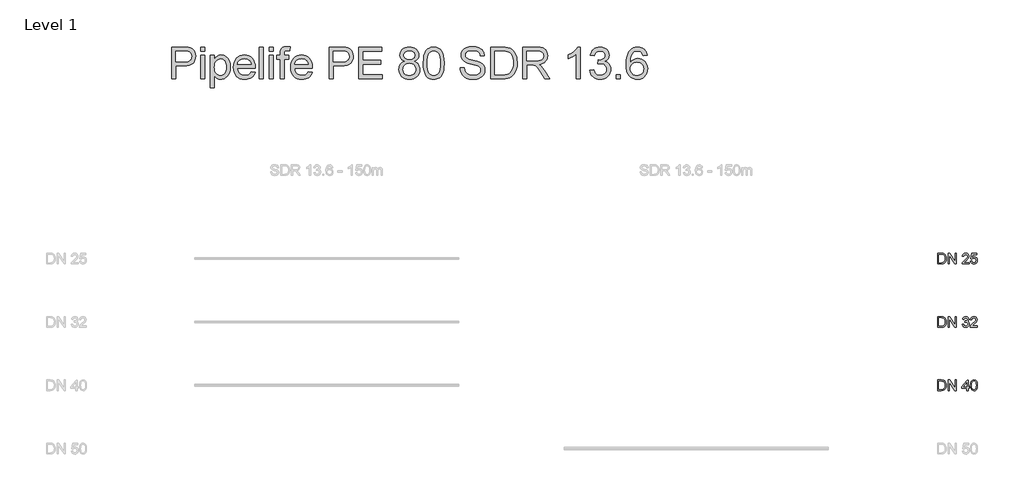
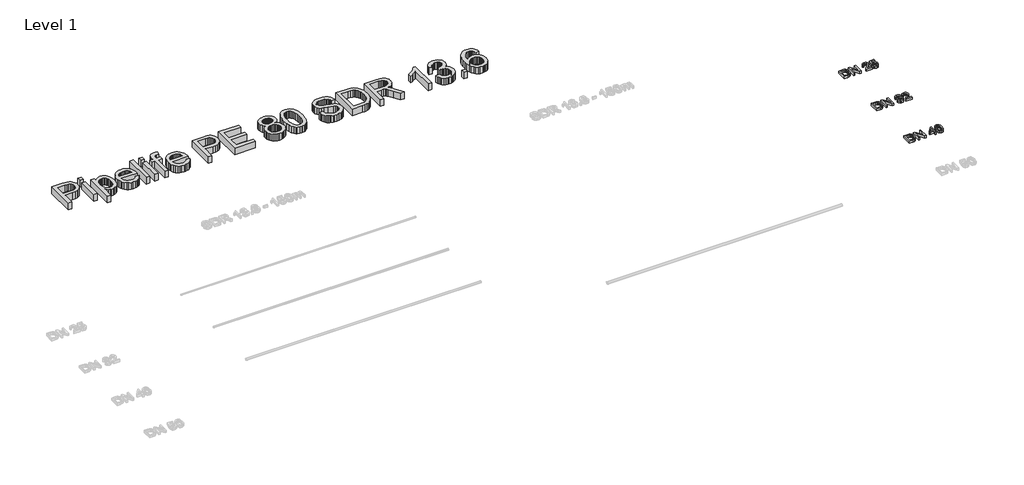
# One storey, part 3 of 6: 4 proxies.
"""IFC4 building model written with IfcOpenShell, lengths in millimetres."""

from ifc_helpers import new_model, si_unit, origin, origin_with_axes, place, context, project, spatial, polyline, outline, extrude, element, save

model = new_model("IFC4")

# Units and contexts
model_context = context("Model", 3, world=origin())
ifc_project = project(units=[si_unit("LENGTHUNIT", "METRE", prefix="MILLI")], contexts=[model_context])

# Site, building, storey
site = spatial("IfcSite", under=ifc_project)
building = spatial("IfcBuilding", under=site)
storey = spatial("IfcBuildingStorey", under=building, Name="Level 1", Elevation=0.0)

# Proxies
placement = place(None, origin())
element("IfcBuildingElementProxy", 1, Name="200mm Arial", ObjectType="200mm Arial", at=placement, inside=storey, context=model_context, shape_type="SweptSolid", body=[
    extrude(outline(polyline([(-2460.6923074, -14213.949573), (-2460.6923074, -14013.0369527), (-2391.3833395, -14013.0369527), (-2355.5271077, -14015.9309577), (-2339.5119782, -14021.5105013), (-2325.9984462, -14030.302881), (-2312.1047695, -14045.606772), (-2302.2087438, -14064.6385338), (-2296.2858437, -14087.0302846), (-2294.3115437, -14112.4141423), (-2299.6580953, -14152.9547382), (-2313.3923565, -14182.2136195), (-2331.7374053, -14200.436041), (-2355.7478369, -14210.5160077), (-2388.0478761, -14213.949573), (-2460.6923074, -14213.949573)]), holes=[polyline([(-2435.5782298, -14188.8354954), (-2391.1380848, -14188.8354954), (-2358.8135202, -14185.2057264), (-2340.1741658, -14174.9540815), (-2331.4492311, -14164.0831685), (-2324.8948002, -14150.0116822), (-2320.792916, -14132.6783089), (-2319.4256212, -14112.0217348), (-2322.1050284, -14084.6513144), (-2330.14325, -14064.4423301), (-2342.0197071, -14050.5609162), (-2356.2138207, -14042.1732067), (-2391.8247979, -14038.1510302), (-2435.5782298, -14038.1510302), (-2435.5782298, -14188.8354954)])]), origin_with_axes(), (0.0, 0.0, 1.0), 50.0),
    extrude(outline(polyline([(-2259.7796871, -14213.949573), (-2259.7796871, -14013.0369527), (-2232.899776, -14013.0369527), (-2127.93078, -14172.2072292), (-2127.93078, -14013.0369527), (-2102.8167025, -14013.0369527), (-2102.8167025, -14213.949573), (-2129.6966136, -14213.949573), (-2234.6656095, -14054.7302454), (-2234.6656095, -14213.949573), (-2259.7796871, -14213.949573)])), origin_with_axes(), (0.0, 0.0, 1.0), 50.0),
    extrude(outline(polyline([(-1989.8033535, -14160.5821582), (-1964.689276, -14157.4428985), (-1959.0668128, -14173.2250361), (-1950.8323875, -14183.8813512), (-1939.5813298, -14189.9514041), (-1924.9089696, -14191.9747551), (-1907.6920922, -14189.1911147), (-1894.3992895, -14180.8401934), (-1885.9012154, -14168.3812565), (-1883.068524, -14153.2735692), (-1885.8766899, -14138.9323028), (-1894.3011876, -14127.3011004), (-1907.0544301, -14119.5939726), (-1922.8488304, -14117.02493), (-1940.4581153, -14119.7717822), (-1937.6622121, -14094.6577047), (-1933.6400356, -14094.9520102), (-1918.593662, -14093.1493885), (-1905.1414437, -14087.7415231), (-1895.6500882, -14078.5935242), (-1892.4863031, -14065.5705016), (-1894.7794342, -14054.7241141), (-1901.6588275, -14045.925603), (-1912.1557271, -14040.0946734), (-1925.3013771, -14038.1510302), (-1938.4715525, -14040.1130675), (-1949.2382322, -14045.9991794), (-1957.0986442, -14055.809366), (-1961.5500163, -14069.5436271), (-1986.6640939, -14066.4043674), (-1979.2696657, -14043.8532011), (-1966.1117531, -14027.0164685), (-1948.1100608, -14016.5318316), (-1926.1842938, -14013.0369527), (-1910.3960249, -14014.7598667), (-1895.8953429, -14019.9286087), (-1883.6693979, -14028.0833263), (-1874.70534, -14038.7641669), (-1869.2055042, -14051.0698196), (-1867.3722255, -14064.0989736), (-1869.1135337, -14076.2390794), (-1874.337458, -14087.2510138), (-1882.9704221, -14096.6320047), (-1894.9388497, -14103.87928), (-1879.2180258, -14110.2313758), (-1867.5684293, -14121.0471064), (-1860.3579422, -14135.7378608), (-1857.9544465, -14153.7150276), (-1862.7614379, -14178.191443), (-1877.1824121, -14198.645682), (-1898.9487635, -14212.478045), (-1925.7918864, -14217.0888326), (-1950.0720981, -14213.1524953), (-1969.8396239, -14201.3434833), (-1983.5861478, -14183.2804773), (-1989.8033535, -14160.5821582)])), origin_with_axes(), (0.0, 0.0, 1.0), 50.0),
    extrude(outline(polyline([(-1707.2699812, -14188.8354954), (-1707.2699812, -14213.949573), (-1839.1188883, -14213.949573), (-1836.421087, -14196.6345937), (-1821.166247, -14169.9754118), (-1789.7245991, -14140.8636832), (-1746.3635746, -14099.0232377), (-1738.2333825, -14084.6022634), (-1735.5233185, -14070.5736967), (-1738.0800983, -14057.9982638), (-1745.7504379, -14047.5442838), (-1757.5410559, -14040.4993436), (-1772.4586708, -14038.1510302), (-1788.1243124, -14040.4441613), (-1800.2950751, -14047.3235546), (-1808.1493557, -14058.2496499), (-1810.8655511, -14072.6828868), (-1835.9796286, -14069.5436271), (-1829.8911816, -14045.2511527), (-1816.7271375, -14027.5069778), (-1797.1742095, -14016.6544589), (-1771.9191105, -14013.0369527), (-1746.4800706, -14017.0591291), (-1726.9639307, -14029.1256586), (-1714.5479134, -14047.1518763), (-1710.4092409, -14069.0531178), (-1714.8728758, -14092.8673456), (-1729.710783, -14117.4909138), (-1765.6896421, -14151.9001431), (-1794.5806414, -14176.0577275), (-1805.9114069, -14188.8354954), (-1707.2699812, -14188.8354954)])), origin_with_axes(), (0.0, 0.0, 1.0), 50.0),
])
element("IfcBuildingElementProxy", 2, Name="200mm Arial", ObjectType="200mm Arial", at=placement, inside=storey, context=model_context, shape_type="SweptSolid", body=[
    extrude(outline(polyline([(-2460.6923074, -15413.949573), (-2460.6923074, -15213.0369527), (-2391.3833395, -15213.0369527), (-2355.5271077, -15215.9309577), (-2339.5119782, -15221.5105013), (-2325.9984462, -15230.302881), (-2312.1047695, -15245.606772), (-2302.2087438, -15264.6385338), (-2296.2858437, -15287.0302846), (-2294.3115437, -15312.4141423), (-2299.6580953, -15352.9547382), (-2313.3923565, -15382.2136195), (-2331.7374053, -15400.436041), (-2355.7478369, -15410.5160077), (-2388.0478761, -15413.949573), (-2460.6923074, -15413.949573)]), holes=[polyline([(-2435.5782298, -15388.8354954), (-2391.1380848, -15388.8354954), (-2358.8135202, -15385.2057264), (-2340.1741658, -15374.9540815), (-2331.4492311, -15364.0831685), (-2324.8948002, -15350.0116822), (-2320.792916, -15332.6783089), (-2319.4256212, -15312.0217348), (-2322.1050284, -15284.6513144), (-2330.14325, -15264.4423301), (-2342.0197071, -15250.5609162), (-2356.2138207, -15242.1732067), (-2391.8247979, -15238.1510302), (-2435.5782298, -15238.1510302), (-2435.5782298, -15388.8354954)])]), origin_with_axes(), (0.0, 0.0, 1.0), 50.0),
    extrude(outline(polyline([(-2259.7796871, -15413.949573), (-2259.7796871, -15213.0369527), (-2232.899776, -15213.0369527), (-2127.93078, -15372.2072292), (-2127.93078, -15213.0369527), (-2102.8167025, -15213.0369527), (-2102.8167025, -15413.949573), (-2129.6966136, -15413.949573), (-2234.6656095, -15254.7302454), (-2234.6656095, -15413.949573), (-2259.7796871, -15413.949573)])), origin_with_axes(), (0.0, 0.0, 1.0), 50.0),
    extrude(outline(polyline([(-1908.1826015, -15413.949573), (-1908.1826015, -15366.8606776), (-1999.2211326, -15366.8606776), (-1999.2211326, -15341.7466), (-1901.9040822, -15216.1762123), (-1883.068524, -15216.1762123), (-1883.068524, -15341.7466), (-1857.9544465, -15341.7466), (-1857.9544465, -15366.8606776), (-1883.068524, -15366.8606776), (-1883.068524, -15413.949573), (-1908.1826015, -15413.949573)]), holes=[polyline([(-1908.1826015, -15341.7466), (-1908.1826015, -15264.1480245), (-1968.319045, -15341.7466), (-1908.1826015, -15341.7466)])]), origin_with_axes(), (0.0, 0.0, 1.0), 50.0),
    extrude(outline(polyline([(-1835.9796286, -15315.1119436), (-1834.1340873, -15282.9529258), (-1828.5974633, -15257.3054194), (-1819.4249388, -15237.7770168), (-1806.6716963, -15223.9753106), (-1790.2457653, -15215.7715422), (-1770.0551751, -15213.0369527), (-1754.5796058, -15214.6556334), (-1740.7227173, -15219.5116758), (-1729.1344345, -15227.4150073), (-1720.4646821, -15238.1755557), (-1708.6924583, -15267.9004209), (-1704.1307216, -15315.1119436), (-1705.9578688, -15347.0870203), (-1711.4393105, -15372.6732131), (-1720.5566526, -15392.2200098), (-1733.291501, -15406.0768983), (-1749.7542203, -15414.335849), (-1770.0551751, -15417.0888326), (-1796.1502713, -15412.3063667), (-1815.9668481, -15397.9589689), (-1824.7224396, -15382.8298218), (-1830.9764335, -15363.9789353), (-1835.9796286, -15315.1119436)]), holes=[polyline([(-1810.8655511, -15315.0628927), (-1807.9224951, -15354.5672876), (-1799.0933272, -15377.4311536), (-1785.9476773, -15388.3388547), (-1770.0551751, -15391.9747551), (-1754.1626729, -15388.326592), (-1741.0170229, -15377.3821026), (-1732.1878551, -15354.5059739), (-1729.2447991, -15315.0628927), (-1732.0897532, -15276.4475459), (-1740.6246155, -15253.4058703), (-1753.74574, -15241.9647402), (-1770.3494807, -15238.1510302), (-1786.0703046, -15241.5110191), (-1798.7009198, -15251.5909857), (-1807.8243933, -15276.0674012), (-1810.8655511, -15315.0628927)])]), origin_with_axes(), (0.0, 0.0, 1.0), 50.0),
])
element("IfcBuildingElementProxy", 3, Name="200mm Arial", ObjectType="200mm Arial", at=placement, inside=storey, context=model_context, shape_type="SweptSolid", body=[
    extrude(outline(polyline([(-2460.6923074, -13013.949573), (-2460.6923074, -12813.0369527), (-2391.3833395, -12813.0369527), (-2355.5271077, -12815.9309577), (-2339.5119782, -12821.5105013), (-2325.9984462, -12830.302881), (-2312.1047695, -12845.606772), (-2302.2087438, -12864.6385338), (-2296.2858437, -12887.0302846), (-2294.3115437, -12912.4141423), (-2299.6580953, -12952.9547382), (-2313.3923565, -12982.2136195), (-2331.7374053, -13000.436041), (-2355.7478369, -13010.5160077), (-2388.0478761, -13013.949573), (-2460.6923074, -13013.949573)]), holes=[polyline([(-2435.5782298, -12988.8354954), (-2391.1380848, -12988.8354954), (-2358.8135202, -12985.2057264), (-2340.1741658, -12974.9540815), (-2331.4492311, -12964.0831685), (-2324.8948002, -12950.0116822), (-2320.792916, -12932.6783089), (-2319.4256212, -12912.0217348), (-2322.1050284, -12884.6513144), (-2330.14325, -12864.4423301), (-2342.0197071, -12850.5609162), (-2356.2138207, -12842.1732067), (-2391.8247979, -12838.1510302), (-2435.5782298, -12838.1510302), (-2435.5782298, -12988.8354954)])]), origin_with_axes(), (0.0, 0.0, 1.0), 50.0),
    extrude(outline(polyline([(-2259.7796871, -13013.949573), (-2259.7796871, -12813.0369527), (-2232.899776, -12813.0369527), (-2127.93078, -12972.2072292), (-2127.93078, -12813.0369527), (-2102.8167025, -12813.0369527), (-2102.8167025, -13013.949573), (-2129.6966136, -13013.949573), (-2234.6656095, -12854.7302454), (-2234.6656095, -13013.949573), (-2259.7796871, -13013.949573)])), origin_with_axes(), (0.0, 0.0, 1.0), 50.0),
    extrude(outline(polyline([(-1861.0937062, -12988.8354954), (-1861.0937062, -13013.949573), (-1992.9426132, -13013.949573), (-1990.2448119, -12996.6345937), (-1974.9899719, -12969.9754118), (-1943.548324, -12940.8636832), (-1900.1872995, -12899.0232377), (-1892.0571074, -12884.6022634), (-1889.3470434, -12870.5736967), (-1891.9038233, -12857.9982638), (-1899.5741629, -12847.5442838), (-1911.3647808, -12840.4993436), (-1926.2823957, -12838.1510302), (-1941.9480373, -12840.4441613), (-1954.1188, -12847.3235546), (-1961.9730806, -12858.2496499), (-1964.689276, -12872.6828868), (-1989.8033535, -12869.5436271), (-1983.7149065, -12845.2511527), (-1970.5508625, -12827.5069778), (-1950.9979344, -12816.6544589), (-1925.7428355, -12813.0369527), (-1900.3037955, -12817.0591291), (-1880.7876556, -12829.1256586), (-1868.3716383, -12847.1518763), (-1864.2329659, -12869.0531178), (-1868.6966007, -12892.8673456), (-1883.5345079, -12917.4909138), (-1919.513367, -12951.9001431), (-1948.4043664, -12976.0577275), (-1959.7351318, -12988.8354954), (-1861.0937062, -12988.8354954)])), origin_with_axes(), (0.0, 0.0, 1.0), 50.0),
    extrude(outline(polyline([(-1835.9796286, -12960.5821582), (-1810.8655511, -12957.4428985), (-1806.2547634, -12972.5199289), (-1798.2104105, -12983.3172655), (-1786.7692804, -12989.8103827), (-1771.9681615, -12991.9747551), (-1753.9664692, -12988.9642541), (-1740.4774627, -12979.9327511), (-1732.052965, -12965.9225785), (-1729.2447991, -12947.9760685), (-1731.8751554, -12931.0780222), (-1739.7662242, -12918.1531014), (-1752.9793191, -12909.9493329), (-1771.575754, -12907.2147434), (-1793.6241482, -12911.5802764), (-1807.7262914, -12922.9110419), (-1832.8403689, -12919.7717822), (-1810.8655511, -12816.1762123), (-1713.5485006, -12816.1762123), (-1713.5485006, -12841.2902899), (-1790.558465, -12841.2902899), (-1801.3006192, -12896.619742), (-1783.3602406, -12885.7304349), (-1764.5614706, -12882.1006659), (-1741.0967307, -12886.601089), (-1721.6173791, -12900.1023582), (-1708.5023859, -12920.6792244), (-1704.1307216, -12946.4064386), (-1708.0670589, -12971.5205162), (-1719.876071, -12993.0048247), (-1730.3116569, -13003.5415782), (-1742.4885509, -13011.0678307), (-1756.4067531, -13015.5835821), (-1772.0662633, -13017.0888326), (-1796.7327511, -13013.2199403), (-1816.383781, -13001.6132634), (-1829.8543934, -12983.6177025), (-1835.9796286, -12960.5821582)])), origin_with_axes(), (0.0, 0.0, 1.0), 50.0),
])
element("IfcBuildingElementProxy", 4, Name="600mm Arial", ObjectType="600mm Arial", at=placement, inside=storey, context=model_context, shape_type="SweptSolid", body=[
    extrude(outline(polyline([(-16966.7426717, -9509.5373902), (-16966.7426717, -8906.7995293), (-16743.3647242, -8906.7995293), (-16691.3462101, -8908.2342691), (-16653.3072118, -8912.5384884), (-16613.152892, -8923.2622486), (-16580.0986947, -8940.7182492), (-16553.4824324, -8965.6974367), (-16532.6419174, -8998.9907573), (-16519.1774363, -9038.2621602), (-16514.689276, -9081.175595), (-16517.7197039, -9118.1753266), (-16526.8109877, -9152.2136083), (-16541.9631274, -9183.2904398), (-16563.176123, -9211.4058213), (-16592.2985814, -9234.7111457), (-16631.1791098, -9251.357806), (-16679.8177081, -9261.3458021), (-16738.2143763, -9264.6751342), (-16891.4004391, -9264.6751342), (-16891.4004391, -9509.5373902), (-16966.7426717, -9509.5373902)]), holes=[polyline([(-16891.4004391, -9189.3329016), (-16733.7997923, -9189.3329016), (-16697.5634158, -9187.6038562), (-16666.992422, -9182.4167201), (-16642.0868109, -9173.7714932), (-16622.8465826, -9161.6681755), (-16608.4899877, -9146.4286639), (-16598.2352771, -9128.374855), (-16592.0824507, -9107.5067488), (-16590.0315086, -9083.8243453), (-16594.8691569, -9049.9792018), (-16609.3821016, -9021.431559), (-16631.767721, -8999.9472504), (-16660.2233933, -8987.2921098), (-16689.2860709, -8983.4293489), (-16735.5656259, -8982.1417619), (-16891.4004391, -8982.1417619), (-16891.4004391, -9189.3329016)])]), origin_with_axes(), (0.0, 0.0, 1.0), 150.0),
    extrude(outline(polyline([(-16420.5114852, -9509.5373902), (-16420.5114852, -9066.9017736), (-16345.1692526, -9066.9017736), (-16345.1692526, -9509.5373902), (-16420.5114852, -9509.5373902)])), origin_with_axes(), (0.0, 0.0, 1.0), 150.0),
    extrude(outline(polyline([(-16420.5114852, -8982.1417619), (-16420.5114852, -8906.7995293), (-16345.1692526, -8906.7995293), (-16345.1692526, -8982.1417619), (-16420.5114852, -8982.1417619)])), origin_with_axes(), (0.0, 0.0, 1.0), 150.0),
    extrude(outline(polyline([(-16232.1559037, -9679.0574135), (-16232.1559037, -9066.9017736), (-16156.8136711, -9066.9017736), (-16156.8136711, -9140.7724782), (-16132.2391538, -9104.3337666), (-16104.7215806, -9078.3061154), (-16072.6422706, -9062.6895247), (-16034.3825431, -9057.4839945), (-16008.1065716, -9059.3050104), (-15983.4308868, -9064.768058), (-15960.3554886, -9073.8731374), (-15938.8803772, -9086.6202485), (-15919.4746019, -9102.6782976), (-15902.6072124, -9121.7161909), (-15888.2782087, -9143.7339283), (-15876.4875908, -9168.7315098), (-15860.7054532, -9224.2449029), (-15855.4447407, -9284.8350675), (-15861.3860349, -9349.269599), (-15868.8126526, -9378.9346834), (-15879.2099175, -9406.8983135), (-15892.4352753, -9432.429324), (-15908.3461716, -9454.7965493), (-15926.9426064, -9473.9999894), (-15948.2245798, -9490.0396444), (-15971.1482267, -9502.6901865), (-15994.6696817, -9511.726288), (-16018.788945, -9517.1479489), (-16043.5060166, -9518.9551692), (-16078.1421064, -9514.117521), (-16109.0625881, -9499.6045763), (-16135.5316977, -9477.6972035), (-16156.8136711, -9450.6762709), (-16156.8136711, -9679.0574135), (-16232.1559037, -9679.0574135)]), holes=[polyline([(-16156.8136711, -9291.751249), (-16154.7765246, -9328.0612019), (-16148.6650849, -9359.2943833), (-16138.4793522, -9385.4507932), (-16124.2193263, -9406.5304315), (-16107.0530327, -9422.7540275), (-16088.1484967, -9434.3423104), (-16067.5057182, -9441.2952801), (-16045.1246974, -9443.6129366), (-16022.4217797, -9441.2125066), (-16001.4019222, -9434.0112166), (-15982.0651249, -9422.0090665), (-15964.4113876, -9405.2060563), (-15949.7007063, -9383.3630629), (-15939.1930769, -9356.2409628), (-15932.8884992, -9323.8397561), (-15930.7869733, -9286.1594427), (-15932.8379154, -9250.1621895), (-15938.9907418, -9218.9841904), (-15949.2454524, -9192.6254454), (-15963.6020472, -9171.0859546), (-15980.8097276, -9154.3473238), (-15999.6176946, -9142.391159), (-16020.0259482, -9135.2174601), (-16042.0344886, -9132.8262271), (-16063.9740511, -9135.3692114), (-16084.6168295, -9142.9981643), (-16103.962824, -9155.7130857), (-16122.0120344, -9173.5139758), (-16137.2377504, -9196.1617111), (-16148.1132619, -9223.4171684), (-16154.6385688, -9255.2803477), (-16156.8136711, -9291.751249)])]), origin_with_axes(), (0.0, 0.0, 1.0), 150.0),
    extrude(outline(polyline([(-15460.7809362, -9377.6884831), (-15386.9102316, -9387.1062622), (-15398.2363985, -9416.6931716), (-15413.5264939, -9442.766808), (-15432.7805179, -9465.3271714), (-15455.9984703, -9484.3742617), (-15482.9412279, -9499.5034087), (-15513.3696674, -9510.3099424), (-15547.2837889, -9516.7938625), (-15584.6835922, -9518.9551692), (-15631.4321967, -9515.2257655), (-15673.0856356, -9504.0375543), (-15709.6439089, -9485.3905357), (-15741.1070165, -9459.2847096), (-15766.4081008, -9426.446643), (-15784.4803038, -9387.6029029), (-15795.3236256, -9342.7534891), (-15798.9380662, -9291.8984018), (-15795.2868374, -9239.3188677), (-15784.333151, -9192.9749333), (-15766.077007, -9152.8665988), (-15740.5184054, -9118.9938641), (-15709.1380712, -9092.0832961), (-15673.4167294, -9072.8614619), (-15633.3543802, -9061.3283613), (-15588.9510233, -9057.4839945), (-15545.9778078, -9061.3191643), (-15507.1156735, -9072.8246737), (-15472.3646205, -9092.0005227), (-15441.7246489, -9118.8467113), (-15416.7132717, -9152.6458696), (-15398.8480023, -9192.6806277), (-15388.1288407, -9238.9509857), (-15384.5557868, -9291.4569434), (-15384.9972452, -9311.7640296), (-15723.5958336, -9311.7640296), (-15719.2318334, -9341.8291856), (-15710.5544168, -9368.1603394), (-15697.5635839, -9390.757491), (-15680.2593345, -9409.6206403), (-15659.598162, -9424.4922699), (-15636.5365594, -9435.1148625), (-15611.0745268, -9441.4884181), (-15583.2120642, -9443.6129366), (-15543.1129267, -9439.6765993), (-15509.3413596, -9427.8675872), (-15481.8973627, -9407.4501365), (-15460.7809362, -9377.6884831)]), holes=[polyline([(-15723.5958336, -9236.4217969), (-15459.8980194, -9236.4217969), (-15470.0883507, -9196.6169651), (-15478.8531392, -9180.9635862), (-15490.064343, -9168.1428986), (-15510.6105525, -9152.6918548), (-15533.9894533, -9141.655395), (-15560.2010454, -9135.0335191), (-15589.2453289, -9132.8262271), (-15615.7374311, -9134.5874622), (-15640.0314384, -9139.8711673), (-15662.1273507, -9148.6773426), (-15682.0251681, -9161.0059879), (-15698.7224122, -9176.2868863), (-15711.2166044, -9193.9498206), (-15719.5077449, -9213.9947908), (-15723.5958336, -9236.4217969)])]), origin_with_axes(), (0.0, 0.0, 1.0), 150.0),
    extrude(outline(polyline([(-15309.2135542, -9509.5373902), (-15309.2135542, -8906.7995293), (-15233.8713216, -8906.7995293), (-15233.8713216, -9509.5373902), (-15309.2135542, -9509.5373902)])), origin_with_axes(), (0.0, 0.0, 1.0), 150.0),
    extrude(outline(polyline([(-15120.8579727, -8982.1417619), (-15120.8579727, -8906.7995293), (-15045.5157401, -8906.7995293), (-15045.5157401, -8982.1417619), (-15120.8579727, -8982.1417619)])), origin_with_axes(), (0.0, 0.0, 1.0), 150.0),
    extrude(outline(polyline([(-15120.8579727, -9509.5373902), (-15120.8579727, -9066.9017736), (-15045.5157401, -9066.9017736), (-15045.5157401, -9509.5373902), (-15120.8579727, -9509.5373902)])), origin_with_axes(), (0.0, 0.0, 1.0), 150.0),
    extrude(outline(polyline([(-14913.666833, -9509.5373902), (-14913.666833, -9142.2440062), (-14979.5912865, -9142.2440062), (-14979.5912865, -9066.9017736), (-14913.666833, -9066.9017736), (-14913.666833, -9022.3144758), (-14911.6802702, -8985.4159116), (-14905.7205819, -8959.480231), (-14890.5638437, -8934.4274671), (-14867.1665488, -8914.5986276), (-14834.4250512, -8901.6859695), (-14791.235705, -8897.3817502), (-14758.5309956, -8899.4418894), (-14722.5153483, -8905.6223069), (-14733.5518082, -8976.25565), (-14776.9618836, -8972.7239828), (-14805.6014969, -8975.8509798), (-14824.418661, -8985.2319706), (-14834.8481155, -9003.1478238), (-14838.3246004, -9031.8794076), (-14838.3246004, -9066.9017736), (-14753.5645887, -9066.9017736), (-14753.5645887, -9142.2440062), (-14838.3246004, -9142.2440062), (-14838.3246004, -9509.5373902), (-14913.666833, -9509.5373902)])), origin_with_axes(), (0.0, 0.0, 1.0), 150.0),
    extrude(outline(polyline([(-14377.7363424, -9377.6884831), (-14303.8656378, -9387.1062622), (-14315.1918047, -9416.6931716), (-14330.4819001, -9442.766808), (-14349.7359241, -9465.3271714), (-14372.9538765, -9484.3742617), (-14399.8966341, -9499.5034087), (-14430.3250736, -9510.3099424), (-14464.2391951, -9516.7938625), (-14501.6389984, -9518.9551692), (-14548.3876029, -9515.2257655), (-14590.0410418, -9504.0375543), (-14626.5993151, -9485.3905357), (-14658.0624227, -9459.2847096), (-14683.363507, -9426.446643), (-14701.43571, -9387.6029029), (-14712.2790318, -9342.7534891), (-14715.8934724, -9291.8984018), (-14712.2422436, -9239.3188677), (-14701.2885572, -9192.9749333), (-14683.0324132, -9152.8665988), (-14657.4738116, -9118.9938641), (-14626.0934774, -9092.0832961), (-14590.3721356, -9072.8614619), (-14550.3097864, -9061.3283613), (-14505.9064295, -9057.4839945), (-14462.933214, -9061.3191643), (-14424.0710797, -9072.8246737), (-14389.3200267, -9092.0005227), (-14358.6800551, -9118.8467113), (-14333.6686779, -9152.6458696), (-14315.8034085, -9192.6806277), (-14305.0842469, -9238.9509857), (-14301.511193, -9291.4569434), (-14301.9526514, -9311.7640296), (-14640.5512398, -9311.7640296), (-14636.1872396, -9341.8291856), (-14627.509823, -9368.1603394), (-14614.5189901, -9390.757491), (-14597.2147407, -9409.6206403), (-14576.5535682, -9424.4922699), (-14553.4919656, -9435.1148625), (-14528.029933, -9441.4884181), (-14500.1674704, -9443.6129366), (-14460.0683329, -9439.6765993), (-14426.2967658, -9427.8675872), (-14398.8527689, -9407.4501365), (-14377.7363424, -9377.6884831)]), holes=[polyline([(-14640.5512398, -9236.4217969), (-14376.8534256, -9236.4217969), (-14387.0437569, -9196.6169651), (-14395.8085454, -9180.9635862), (-14407.0197492, -9168.1428986), (-14427.5659587, -9152.6918548), (-14450.9448595, -9141.655395), (-14477.1564516, -9135.0335191), (-14506.2007351, -9132.8262271), (-14532.6928373, -9134.5874622), (-14556.9868446, -9139.8711673), (-14579.0827569, -9148.6773426), (-14598.9805743, -9161.0059879), (-14615.6778184, -9176.2868863), (-14628.1720106, -9193.9498206), (-14636.4631511, -9213.9947908), (-14640.5512398, -9236.4217969)])]), origin_with_axes(), (0.0, 0.0, 1.0), 150.0),
    extrude(outline(polyline([(-13981.3067044, -9509.5373902), (-13981.3067044, -8906.7995293), (-13757.928757, -8906.7995293), (-13705.9102428, -8908.2342691), (-13667.8712445, -8912.5384884), (-13627.7169248, -8923.2622486), (-13594.6627275, -8940.7182492), (-13568.0464651, -8965.6974367), (-13547.2059501, -8998.9907573), (-13533.7414691, -9038.2621602), (-13529.2533087, -9081.175595), (-13532.2837367, -9118.1753266), (-13541.3750205, -9152.2136083), (-13556.5271602, -9183.2904398), (-13577.7401557, -9211.4058213), (-13606.8626142, -9234.7111457), (-13645.7431425, -9251.357806), (-13694.3817408, -9261.3458021), (-13752.778409, -9264.6751342), (-13905.9644718, -9264.6751342), (-13905.9644718, -9509.5373902), (-13981.3067044, -9509.5373902)]), holes=[polyline([(-13905.9644718, -9189.3329016), (-13748.3638251, -9189.3329016), (-13712.1274486, -9187.6038562), (-13681.5564548, -9182.4167201), (-13656.6508437, -9173.7714932), (-13637.4106153, -9161.6681755), (-13623.0540205, -9146.4286639), (-13612.7993099, -9128.374855), (-13606.6464835, -9107.5067488), (-13604.5955414, -9083.8243453), (-13609.4331896, -9049.9792018), (-13623.9461343, -9021.431559), (-13646.3317537, -8999.9472504), (-13674.787426, -8987.2921098), (-13703.8501037, -8983.4293489), (-13750.1296587, -8982.1417619), (-13905.9644718, -8982.1417619), (-13905.9644718, -9189.3329016)])]), origin_with_axes(), (0.0, 0.0, 1.0), 150.0),
    extrude(outline(polyline([(-13425.6577389, -9509.5373902), (-13425.6577389, -8906.7995293), (-12992.4399014, -8906.7995293), (-12992.4399014, -8982.1417619), (-13350.3155063, -8982.1417619), (-13350.3155063, -9161.0795643), (-13011.2754595, -9161.0795643), (-13011.2754595, -9236.4217969), (-13350.3155063, -9236.4217969), (-13350.3155063, -9434.1951576), (-12983.0221223, -9434.1951576), (-12983.0221223, -9509.5373902), (-13425.6577389, -9509.5373902)])), origin_with_axes(), (0.0, 0.0, 1.0), 150.0),
    extrude(outline(polyline([(-12553.0416463, -9177.5606777), (-12593.3799071, -9157.69505), (-12609.0378845, -9145.1134857), (-12621.6884266, -9130.7660879), (-12638.4086633, -9097.3256146), (-12643.9820756, -9057.9254529), (-12640.9470491, -9027.1981092), (-12631.8419697, -8999.0275455), (-12616.6668374, -8973.4137615), (-12595.4216522, -8950.3567575), (-12569.1272866, -8931.3004701), (-12538.8046131, -8917.6888363), (-12504.4536318, -8909.521856), (-12466.0743427, -8906.7995293), (-12427.5111125, -8909.5862354), (-12392.9026138, -8917.9463537), (-12362.2488466, -8931.8798843), (-12335.5498108, -8951.3868271), (-12313.9183495, -8974.8944866), (-12298.4673057, -9000.8301672), (-12289.1966794, -9029.1938691), (-12286.1064706, -9059.9855921), (-12291.6063065, -9098.1165609), (-12308.105814, -9130.9868171), (-12320.5264298, -9145.2376459), (-12335.7889341, -9157.7502323), (-12374.8396079, -9177.5606777), (-12350.0765511, -9188.0958984), (-12328.4680824, -9201.4546133), (-12310.0142018, -9217.6368226), (-12294.7149093, -9236.6425261), (-12282.7081607, -9258.0486597), (-12274.1319117, -9281.4321591), (-12268.9861623, -9306.7930241), (-12267.2709125, -9334.1312549), (-12270.6738209, -9371.7104007), (-12280.8825463, -9406.1625495), (-12297.8970886, -9437.4877014), (-12321.7174478, -9465.6858563), (-12351.0928251, -9488.9911807), (-12384.7724218, -9505.637841), (-12422.7562378, -9515.6258372), (-12465.0442731, -9518.9551692), (-12507.3323084, -9515.6120416), (-12545.3161244, -9505.5826587), (-12578.9957211, -9488.8670206), (-12608.3710984, -9465.4651271), (-12632.1914576, -9437.0692356), (-12649.2059999, -9405.3716032), (-12659.4147253, -9370.3722299), (-12662.8176337, -9332.0711157), (-12661.033406, -9303.4866847), (-12655.680723, -9277.3302748), (-12646.7595846, -9253.6018861), (-12634.2699909, -9232.3015186), (-12618.4878533, -9213.8154483), (-12599.6890833, -9198.5299514), (-12577.873681, -9186.4450279), (-12553.0416463, -9177.5606777)]), holes=[polyline([(-12587.4754011, -9329.4223653), (-12584.33001, -9358.2459197), (-12574.8938369, -9386.149769), (-12557.4746244, -9410.485163), (-12530.3801154, -9428.6033512), (-12497.9329235, -9439.8605403), (-12464.4556619, -9443.6129366), (-12437.2140002, -9441.6401694), (-12413.1729118, -9435.7218678), (-12392.3323968, -9425.8580318), (-12374.6924551, -9412.0486614), (-12360.657757, -9395.1950675), (-12350.6329726, -9376.198561), (-12344.618102, -9355.0591419), (-12342.6131451, -9331.7768101), (-12344.6824813, -9308.1219978), (-12350.89049, -9286.6009011), (-12361.2371711, -9267.2135199), (-12375.7225247, -9249.9598544), (-12393.8407129, -9235.7963976), (-12415.0858982, -9225.6796427), (-12439.4580803, -9219.6095898), (-12466.9572595, -9217.5862388), (-12493.7988495, -9219.5819986), (-12517.5226397, -9225.5692781), (-12538.12863, -9235.5480772), (-12555.6168203, -9249.518396), (-12569.5549494, -9266.486953), (-12579.5107559, -9285.4604669), (-12585.4842398, -9306.4389377), (-12587.4754011, -9329.4223653)]), polyline([(-12568.6398429, -9060.1327449), (-12566.9705784, -9077.4048045), (-12561.9627847, -9093.0213952), (-12553.616462, -9106.9825169), (-12541.9316101, -9119.2881697), (-12527.0553819, -9129.3313482), (-12509.1349302, -9136.5050471), (-12488.170255, -9140.8092664), (-12464.1613563, -9142.2440062), (-12440.7456673, -9140.8184635), (-12420.2362461, -9136.5418353), (-12402.6330926, -9129.4141216), (-12387.9362069, -9119.4353225), (-12376.3479241, -9107.3871871), (-12368.0705792, -9094.0514648), (-12363.1041722, -9079.4281555), (-12361.4487033, -9063.5172592), (-12363.1593545, -9046.9855621), (-12368.2913084, -9031.8242253), (-12376.8445648, -9018.033249), (-12388.8191237, -9005.6126332), (-12403.8471032, -8995.344127), (-12421.5606213, -8988.0094797), (-12441.9596779, -8983.6086913), (-12465.0442731, -8982.1417619), (-12488.3082108, -8983.5765017), (-12508.8038364, -8987.880721), (-12526.5311501, -8995.0544199), (-12541.4901517, -9005.0975984), (-12553.3681416, -9017.1457337), (-12561.8524201, -9030.3343033), (-12566.9429872, -9044.663307), (-12568.6398429, -9060.1327449)])]), origin_with_axes(), (0.0, 0.0, 1.0), 150.0),
    extrude(outline(polyline([(-12201.346459, -9213.0245021), (-12195.8098349, -9116.5474488), (-12188.8890549, -9075.6343724), (-12179.1999628, -9039.6049295), (-12166.7839455, -9008.1648145), (-12151.6823896, -8981.0197218), (-12133.8952951, -8958.1696514), (-12113.4226621, -8939.6146032), (-12090.1955126, -8925.2580084), (-12064.1448689, -8915.0032978), (-12035.2707308, -8908.8504714), (-12003.5730984, -8906.7995293), (-11957.1463906, -8911.6555716), (-11915.5757251, -8926.2236986), (-11880.8108766, -8949.9336932), (-11854.8016195, -8982.2153383), (-11835.156721, -9022.7927223), (-11819.484948, -9071.3899339), (-11809.2210403, -9133.1021386), (-11805.7997377, -9213.0245021), (-11811.2811795, -9308.9497323), (-11818.1329816, -9349.7248529), (-11827.7255047, -9385.7083106), (-11840.044953, -9417.1622212), (-11855.077531, -9444.3487006), (-11872.8232387, -9467.2677489), (-11893.2820762, -9485.9193661), (-11916.5368168, -9500.37253), (-11942.670234, -9510.6962185), (-11971.6823279, -9516.8904315), (-12003.5730984, -9518.9551692), (-12045.0701874, -9515.3683198), (-12081.8583869, -9504.6077714), (-12113.9376969, -9486.6735242), (-12141.3081173, -9461.565578), (-12167.5748918, -9416.1781368), (-12186.3368736, -9359.6254771), (-12197.5940626, -9291.9075989), (-12201.346459, -9213.0245021)]), holes=[polyline([(-12126.0042263, -9212.8773493), (-12123.7969344, -9278.37414), (-12117.1750585, -9331.390534), (-12106.1385986, -9371.9265313), (-12090.6875548, -9399.982132), (-12071.9991495, -9419.070609), (-12051.2506049, -9432.7052355), (-12028.4419212, -9440.8860113), (-12003.5730984, -9443.6129366), (-11978.7042755, -9440.8768143), (-11955.8955918, -9432.6684473), (-11935.1470472, -9418.9878356), (-11916.4586419, -9399.8349792), (-11901.0075981, -9371.7333933), (-11889.9711382, -9331.206593), (-11883.3492623, -9278.2545783), (-11881.1419704, -9212.8773493), (-11883.2756859, -9149.1142024), (-11889.6768326, -9097.031309), (-11900.3454105, -9056.6286689), (-11915.2814195, -9027.9062821), (-11933.6571252, -9007.8843045), (-11954.644793, -8993.5828919), (-11978.244423, -8985.0020444), (-12004.4560151, -8982.1417619), (-12029.1960793, -8984.6617535), (-12051.6184869, -8992.2217286), (-12071.723238, -9004.8216869), (-12089.5103324, -9022.4616286), (-12105.476411, -9053.7315981), (-12116.8807529, -9095.8908748), (-12123.723358, -9148.9394585), (-12126.0042263, -9212.8773493)])]), origin_with_axes(), (0.0, 0.0, 1.0), 150.0),
    extrude(outline(polyline([(-11504.4308073, -9302.3462505), (-11429.0885747, -9302.3462505), (-11420.4433478, -9344.1560392), (-11404.808363, -9377.7620595), (-11380.4177867, -9404.4335041), (-11345.5057854, -9425.4395661), (-11302.8314739, -9439.069594), (-11255.1539674, -9443.6129366), (-11213.1786317, -9440.17324), (-11176.4272204, -9429.85415), (-11146.6471729, -9413.5201894), (-11125.5859287, -9392.0358809), (-11113.0595467, -9367.3693931), (-11108.8840861, -9341.4888948), (-11112.011083, -9316.270584), (-11121.3920739, -9294.4735758), (-11140.4483613, -9275.8771409), (-11172.6012476, -9260.2605502), (-11282.3036586, -9231.4921782), (-11354.3165592, -9212.454285), (-11400.3937791, -9194.3360967), (-11437.8993485, -9168.9890272), (-11464.4788226, -9138.2708806), (-11480.3161425, -9102.8438445), (-11485.5952491, -9063.3701064), (-11483.9627728, -9040.9339032), (-11479.0653437, -9019.2426611), (-11470.902962, -8998.29638), (-11459.4756275, -8978.0950599), (-11444.912099, -8959.4618369), (-11427.3411352, -8943.2198468), (-11406.7627361, -8929.3690897), (-11383.1769017, -8917.9095655), (-11330.1651062, -8902.513704), (-11271.4879279, -8897.3817502), (-11207.9179192, -8902.7528273), (-11152.2941615, -8918.8660587), (-11127.9587675, -8930.8682088), (-11106.6032177, -8945.3903506), (-11088.2275121, -8962.432484), (-11072.8316506, -8981.9946091), (-11060.5351949, -9003.5065088), (-11051.4577066, -9026.3979659), (-11045.5991859, -9050.6689805), (-11042.9596325, -9076.3195526), (-11118.3018652, -9076.3195526), (-11123.3418485, -9052.2784643), (-11132.1342282, -9031.3643728), (-11144.6790042, -9013.5772784), (-11160.9761766, -8998.9171809), (-11181.329248, -8987.4576567), (-11206.041721, -8979.2722823), (-11235.1135957, -8974.3610577), (-11268.544872, -8972.7239828), (-11303.0430061, -8974.3426636), (-11332.5195509, -8979.1987059), (-11356.9745066, -8987.2921098), (-11376.407873, -8998.6228753), (-11391.2151233, -9012.2437061), (-11401.7917306, -9027.2073063), (-11408.1376951, -9043.5136757), (-11410.2530165, -9061.1628144), (-11408.7538974, -9076.3471438), (-11404.25654, -9090.1151275), (-11396.7609444, -9102.4667655), (-11386.2671104, -9113.4020578), (-11369.7492089, -9123.7579359), (-11343.7399518, -9134.2241787), (-11263.2473713, -9155.487758), (-11180.1796167, -9175.6844795), (-11129.9269362, -9193.3060271), (-11086.9767133, -9220.6396594), (-11070.3714397, -9236.7069055), (-11057.0127248, -9254.3744383), (-11046.7442186, -9273.5502873), (-11039.4095713, -9294.142482), (-11033.5418535, -9339.5759084), (-11035.2295121, -9363.1433487), (-11040.2924881, -9386.0210103), (-11048.7307813, -9408.2088931), (-11060.5443919, -9429.7069972), (-11075.5263862, -9449.6829896), (-11093.4698305, -9467.3045371), (-11114.3747249, -9482.5716399), (-11138.2410693, -9495.484298), (-11164.3744865, -9505.7528041), (-11192.0805993, -9513.0874514), (-11252.2109114, -9518.9551692), (-11290.7511489, -9517.3732767), (-11326.0264337, -9512.6275989), (-11358.0367658, -9504.718136), (-11386.7821452, -9493.644888), (-11412.4373159, -9479.3894607), (-11435.1770217, -9461.93346), (-11455.0012627, -9441.276886), (-11471.9100389, -9417.4197386), (-11485.5308698, -9391.13457), (-11495.4912748, -9363.1939325), (-11501.791254, -9333.597826), (-11504.4308073, -9302.3462505)])), origin_with_axes(), (0.0, 0.0, 1.0), 150.0),
    extrude(outline(polyline([(-10920.5285046, -9509.5373902), (-10920.5285046, -8906.7995293), (-10712.6016009, -8906.7995293), (-10650.4663319, -8908.970033), (-10605.0329055, -8915.4815444), (-10556.9875169, -8932.2201751), (-10516.446921, -8958.5973142), (-10494.1072869, -8980.1551991), (-10474.765891, -9004.5089872), (-10458.4227334, -9031.6586784), (-10445.077814, -9061.6042728), (-10434.7127388, -9094.0698589), (-10427.3091136, -9128.7795252), (-10421.3862135, -9204.9310982), (-10425.3961272, -9269.623147), (-10437.4258685, -9326.5528858), (-10455.7463918, -9375.0213386), (-10478.6286519, -9414.3295298), (-10504.9690028, -9445.3603761), (-10533.6637984, -9468.9967943), (-10566.6076311, -9486.5263714), (-10605.6950931, -9499.2366943), (-10650.9997608, -9506.9622162), (-10702.5952106, -9509.5373902), (-10920.5285046, -9509.5373902)]), holes=[polyline([(-10845.1862719, -9434.1951576), (-10711.8658369, -9434.1951576), (-10656.7203258, -9431.4728308), (-10614.892143, -9423.3058505), (-10583.3278678, -9410.1724633), (-10558.9740797, -9392.5509157), (-10532.7992757, -9359.9381768), (-10513.1359831, -9317.7237179), (-10500.8303304, -9265.7235979), (-10496.7284461, -9203.7538758), (-10498.7380015, -9160.0127066), (-10504.7666677, -9121.6426145), (-10514.8144447, -9088.6435995), (-10528.8813325, -9061.0156616), (-10545.8268969, -9038.1334015), (-10564.5107037, -9019.3714198), (-10584.932753, -9004.7297164), (-10607.0930447, -8994.2082913), (-10650.4295437, -8985.1583942), (-10713.9259761, -8982.1417619), (-10845.1862719, -8982.1417619), (-10845.1862719, -9434.1951576)])]), origin_with_axes(), (0.0, 0.0, 1.0), 150.0),
    extrude(outline(polyline([(-10317.7906437, -9509.5373902), (-10317.7906437, -8906.7995293), (-10058.0659551, -8906.7995293), (-9988.2603465, -8910.8646253), (-9937.474237, -8923.0599135), (-9917.8753237, -8932.753604), (-9900.3549437, -8945.5742916), (-9884.913097, -8961.5219761), (-9871.5497835, -8980.5966575), (-9860.7662425, -9001.7728649), (-9853.0637132, -9024.025127), (-9848.4421957, -9047.3534441), (-9846.9016898, -9071.7578159), (-9849.4538712, -9102.7150858), (-9857.1104152, -9131.1339699), (-9869.8713219, -9157.0144683), (-9887.7365913, -9180.3565809), (-9910.9361496, -9200.4153467), (-9939.6999231, -9216.4458046), (-9974.0279118, -9228.4479547), (-10013.9201156, -9236.4217969), (-9989.088081, -9252.6453929), (-9971.0986514, -9268.6482597), (-9940.233352, -9305.2525182), (-9910.0302402, -9346.1977843), (-9809.5248791, -9509.5373902), (-9897.080794, -9509.5373902), (-9975.5132353, -9384.6046646), (-10032.1670626, -9301.9047921), (-10053.2283068, -9277.7901273), (-10071.9718945, -9262.8357242), (-10107.8036008, -9248.4883264), (-10151.5079818, -9245.839576), (-10242.448411, -9245.839576), (-10242.448411, -9509.5373902), (-10317.7906437, -9509.5373902)]), holes=[polyline([(-10242.448411, -9170.4973434), (-10073.8113045, -9170.4973434), (-10025.3796398, -9167.8301989), (-9987.800494, -9159.8287656), (-9959.5103686, -9145.9596143), (-9938.945765, -9125.6893164), (-9926.4193831, -9101.1699814), (-9922.2439224, -9074.5537191), (-9924.2350837, -9055.2858996), (-9930.2085676, -9037.8023078), (-9940.1643741, -9022.1029436), (-9954.1025032, -9008.1878071), (-9972.3448517, -8996.7926623), (-9995.2133162, -8988.6532732), (-10022.7078968, -8983.7696397), (-10054.8285935, -8982.1417619), (-10242.448411, -8982.1417619), (-10242.448411, -9170.4973434)])]), origin_with_axes(), (0.0, 0.0, 1.0), 150.0),
    extrude(outline(polyline([(-9225.3282708, -9509.5373902), (-9300.6705034, -9509.5373902), (-9300.6705034, -9039.8256587), (-9332.124414, -9065.2646987), (-9372.0396105, -9090.6669505), (-9413.9413697, -9112.8686289), (-9451.3549686, -9128.7059488), (-9451.3549686, -9057.4839945), (-9392.1811497, -9025.2943199), (-9340.9167937, -8986.9978042), (-9300.5049565, -8946.2732674), (-9273.8886941, -8906.7995293), (-9225.3282708, -8906.7995293), (-9225.3282708, -9509.5373902)])), origin_with_axes(), (0.0, 0.0, 1.0), 150.0),
    extrude(outline(polyline([(-9046.3904683, -9349.4351459), (-8971.0482357, -9340.0173668), (-8954.1808462, -9387.3637796), (-8942.8086941, -9405.2704357), (-8929.4775703, -9419.332725), (-8913.8839722, -9429.9553176), (-8895.7243972, -9437.5428837), (-8874.9988453, -9442.0954234), (-8851.7073165, -9443.6129366), (-8824.4104724, -9441.5252063), (-8800.0566844, -9435.2620153), (-8778.6459522, -9424.8233637), (-8760.1782761, -9410.2092515), (-8745.3066464, -9392.5141275), (-8734.6840538, -9372.8324408), (-8728.3104982, -9351.1641912), (-8726.1859797, -9327.509379), (-8728.2921041, -9304.9812053), (-8734.6104774, -9284.4855796), (-8745.1410995, -9266.022502), (-8759.8839705, -9249.5919724), (-8777.8734, -9236.1044987), (-8798.143698, -9226.470589), (-8820.6948643, -9220.6902431), (-8845.526899, -9218.7634612), (-8869.328864, -9220.8236004), (-8898.3547535, -9227.0040179), (-8889.967044, -9151.6617853), (-8877.9005145, -9152.544702), (-8832.7613937, -9147.1368367), (-8792.4047389, -9130.9132407), (-8775.7948668, -9118.6443762), (-8763.9306724, -9103.4692439), (-8756.8121558, -9085.3878438), (-8754.4393169, -9064.400176), (-8756.1591653, -9047.3626411), (-8761.3187103, -9031.8610135), (-8769.9179519, -9017.8952933), (-8781.9568902, -9005.4654804), (-8796.7089582, -8995.2613535), (-8813.447589, -8987.9726915), (-8852.8845389, -8982.1417619), (-8873.5411129, -8983.6132899), (-8892.3950651, -8988.0278738), (-8909.4463956, -8995.3855137), (-8924.6951043, -9005.6862096), (-8937.7641122, -9018.9299614), (-8948.2763402, -9035.1167692), (-8956.2317884, -9054.2466329), (-8961.6304566, -9076.3195526), (-9036.9726892, -9066.9017736), (-9028.0423538, -9030.9321115), (-9014.7894049, -8999.2482747), (-8997.2138426, -8971.8502631), (-8975.3156669, -8948.7380767), (-8949.7846564, -8930.3899622), (-8921.31059, -8917.2841661), (-8889.8934676, -8909.4206885), (-8855.5332892, -8906.7995293), (-8808.1684823, -8911.9682713), (-8764.6664364, -8927.4744974), (-8727.9886015, -8951.9386501), (-8701.0964276, -8983.9811719), (-8684.5969202, -9020.8981301), (-8679.0970843, -9059.9855921), (-8684.3210087, -9096.4059096), (-8699.9927817, -9129.4417128), (-8725.8916741, -9157.5846854), (-8761.7969569, -9179.3265113), (-8736.6890107, -9187.1807919), (-8714.6344851, -9198.3827986), (-8695.63338, -9212.9325316), (-8679.6856955, -9230.8299906), (-8667.0673431, -9251.6337174), (-8658.0542342, -9274.9022536), (-8652.6463689, -9300.6355992), (-8650.8437471, -9328.8337541), (-8654.4489907, -9367.0566934), (-8665.2647213, -9402.2630004), (-8683.2909391, -9434.452675), (-8708.527644, -9463.6257172), (-8739.2733817, -9487.8323525), (-8773.8266981, -9505.1228062), (-8812.1875931, -9515.4970785), (-8854.3560668, -9518.9551692), (-8892.4686415, -9516.0029162), (-8927.1967019, -9507.1461572), (-8958.5402479, -9492.3848921), (-8986.4992795, -9471.7191211), (-9009.9425596, -9446.3628545), (-9027.7388512, -9417.5301032), (-9039.8881541, -9385.2208669), (-9046.3904683, -9349.4351459)])), origin_with_axes(), (0.0, 0.0, 1.0), 150.0),
    extrude(outline(polyline([(-8547.2481773, -9509.5373902), (-8547.2481773, -9434.1951576), (-8471.9059447, -9434.1951576), (-8471.9059447, -9509.5373902), (-8547.2481773, -9509.5373902)])), origin_with_axes(), (0.0, 0.0, 1.0), 150.0),
    extrude(outline(polyline([(-7963.3458745, -9066.9017736), (-8038.6881071, -9076.3195526), (-8050.828213, -9038.9795301), (-8067.23575, -9013.4853079), (-8083.4317548, -8999.7725065), (-8101.4119873, -8989.9776484), (-8121.1764475, -8984.1007335), (-8142.7251354, -8982.1417619), (-8177.7475013, -8986.7034986), (-8210.7097281, -9000.3887088), (-8239.0182476, -9029.2122632), (-8262.139631, -9068.8883363), (-8271.1757325, -9094.1940191), (-8277.7562217, -9125.0087347), (-8283.5503631, -9203.1652646), (-8253.3288572, -9167.9037753), (-8217.1108748, -9143.0533466), (-8176.9197668, -9128.3196727), (-8134.7788843, -9123.408448), (-8098.5792959, -9126.7653712), (-8065.1756108, -9136.8361409), (-8034.5678288, -9153.6207569), (-8006.75595, -9177.1192193), (-7983.6437636, -9205.9335766), (-7967.1350591, -9238.6658771), (-7957.2298364, -9275.3161209), (-7953.9280954, -9315.8843079), (-7955.4823969, -9343.3512974), (-7960.1453012, -9369.8342025), (-7967.9168083, -9395.3330233), (-7978.7969183, -9419.8477597), (-7992.3993551, -9442.4633054), (-8008.3378425, -9462.2645538), (-8026.6123806, -9479.2515049), (-8047.2229694, -9493.4241588), (-8069.7281505, -9504.5939759), (-8093.6864654, -9512.5724166), (-8119.0979142, -9517.3594811), (-8145.9624969, -9518.9551692), (-8190.87629, -9514.7245263), (-8231.4398785, -9502.0325975), (-8267.6532624, -9480.8793827), (-8299.5164417, -9451.2648821), (-8325.4935091, -9411.9382968), (-8344.0485572, -9361.6488281), (-8355.1815861, -9300.3964759), (-8358.8925957, -9228.1812403), (-8354.7723174, -9147.2196102), (-8342.4114824, -9078.1221744), (-8321.8100906, -9020.888933), (-8308.419186, -8996.7213852), (-8292.9681422, -8975.519886), (-8261.7073697, -8945.4547299), (-8225.4617961, -8923.9796184), (-8184.2314215, -8911.0945516), (-8138.0162458, -8906.7995293), (-8103.3157766, -8909.4574767), (-8071.9078513, -8917.4313189), (-8043.7924698, -8930.721056), (-8018.9696322, -8949.3266879), (-7998.1107231, -8972.6228153), (-7981.8871271, -8999.9840386), (-7970.2988442, -9031.4103581), (-7963.3458745, -9066.9017736)]), holes=[polyline([(-8283.5503631, -9314.7070855), (-8279.1909615, -9348.0923766), (-8266.1127566, -9379.9693515), (-8245.8056704, -9407.3765601), (-8219.7596252, -9427.3525524), (-8188.3241087, -9439.5478406), (-8151.8486089, -9443.6129366), (-8125.6600093, -9441.5068122), (-8102.1293572, -9435.1884389), (-8081.2566525, -9424.6578168), (-8063.0418952, -9409.9149459), (-8048.2668346, -9391.5576343), (-8037.7132198, -9370.1836904), (-8031.381051, -9345.7931141), (-8029.2703281, -9318.3859055), (-8031.3534599, -9292.0501531), (-8037.6028552, -9268.6666538), (-8048.0185142, -9248.2354075), (-8062.6004368, -9230.7564142), (-8080.8703764, -9216.7539058), (-8102.3500864, -9206.752114), (-8127.0395668, -9200.751039), (-8154.9388176, -9198.7506806), (-8180.7779292, -9200.751039), (-8204.5844929, -9206.752114), (-8226.3585084, -9216.7539058), (-8246.099976, -9230.7564142), (-8262.4845204, -9248.0054813), (-8274.1877663, -9267.7469488), (-8281.2097139, -9289.9808169), (-8283.5503631, -9314.7070855)])]), origin_with_axes(), (0.0, 0.0, 1.0), 150.0),
])

save(model, "model.ifc")
